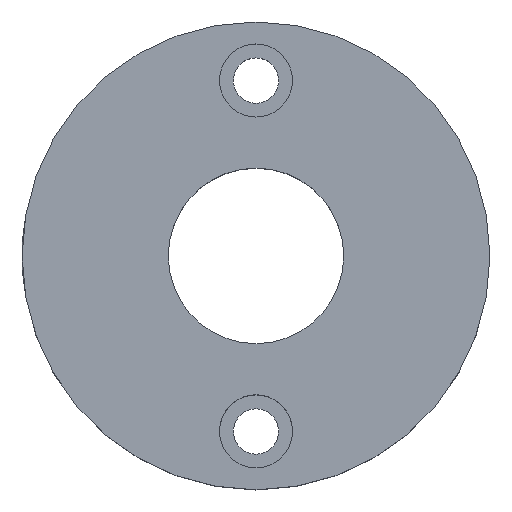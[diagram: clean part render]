
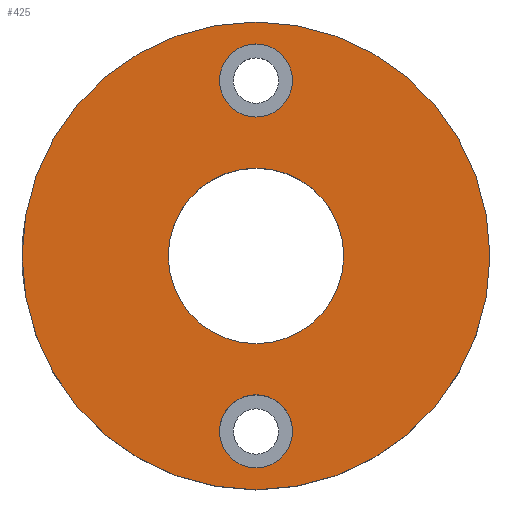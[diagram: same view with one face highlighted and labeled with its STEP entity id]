
A CAD part, top view. The second image highlights one B-rep face of the part: STEP entity #425.
In plain terms, the highlighted planar face has unit normal (0, 0, 1).
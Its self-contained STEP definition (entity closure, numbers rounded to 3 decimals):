
#6 = ORIENTED_EDGE ( 'NONE', *, *, #511, .F. ) ;
#13 = DIRECTION ( 'NONE',  ( 0., 0., 1. ) ) ;
#15 = AXIS2_PLACEMENT_3D ( 'NONE', #675, #160, #373 ) ;
#31 = DIRECTION ( 'NONE',  ( 1., 0., 0. ) ) ;
#34 = CARTESIAN_POINT ( 'NONE',  ( 19.05, 49.931, 22.225 ) ) ;
#39 = DIRECTION ( 'NONE',  ( 1., 0., 0. ) ) ;
#42 = VERTEX_POINT ( 'NONE', #200 ) ;
#63 = ORIENTED_EDGE ( 'NONE', *, *, #433, .F. ) ;
#96 = VERTEX_POINT ( 'NONE', #492 ) ;
#98 = DIRECTION ( 'NONE',  ( 1., 0., 0. ) ) ;
#102 = CARTESIAN_POINT ( 'NONE',  ( 19.05, 49.931, 22.225 ) ) ;
#105 = EDGE_LOOP ( 'NONE', ( #520, #393 ) ) ;
#109 = CARTESIAN_POINT ( 'NONE',  ( 19.05, 11.831, 22.225 ) ) ;
#159 = EDGE_LOOP ( 'NONE', ( #6, #413 ) ) ;
#160 = DIRECTION ( 'NONE',  ( 0., 0., 1. ) ) ;
#165 = EDGE_CURVE ( 'NONE', #741, #222, #337, .T. ) ;
#178 = EDGE_CURVE ( 'NONE', #42, #96, #732, .T. ) ;
#188 = CARTESIAN_POINT ( 'NONE',  ( 19.05, 49.931, 22.225 ) ) ;
#200 = CARTESIAN_POINT ( 'NONE',  ( -31.75, 49.931, 22.225 ) ) ;
#205 = DIRECTION ( 'NONE',  ( 0., 0., 1. ) ) ;
#222 = VERTEX_POINT ( 'NONE', #277 ) ;
#233 = CARTESIAN_POINT ( 'NONE',  ( 26.988, 11.831, 22.225 ) ) ;
#237 = CIRCLE ( 'NONE', #462, 50.8 ) ;
#241 = FACE_BOUND ( 'NONE', #756, .T. ) ;
#242 = VERTEX_POINT ( 'NONE', #558 ) ;
#245 = DIRECTION ( 'NONE',  ( 0., 0., 1. ) ) ;
#250 = CIRCLE ( 'NONE', #676, 7.938 ) ;
#256 = EDGE_LOOP ( 'NONE', ( #63, #512 ) ) ;
#270 = DIRECTION ( 'NONE',  ( 1., 0., 0. ) ) ;
#277 = CARTESIAN_POINT ( 'NONE',  ( 26.988, 88.031, 22.225 ) ) ;
#284 = AXIS2_PLACEMENT_3D ( 'NONE', #188, #13, #419 ) ;
#291 = VERTEX_POINT ( 'NONE', #706 ) ;
#297 = CIRCLE ( 'NONE', #284, 19.05 ) ;
#304 = AXIS2_PLACEMENT_3D ( 'NONE', #619, #564, #31 ) ;
#309 = DIRECTION ( 'NONE',  ( 1., 0., 0. ) ) ;
#312 = VERTEX_POINT ( 'NONE', #233 ) ;
#337 = CIRCLE ( 'NONE', #304, 7.938 ) ;
#339 = DIRECTION ( 'NONE',  ( 0., 0., 1. ) ) ;
#353 = FACE_BOUND ( 'NONE', #159, .T. ) ;
#373 = DIRECTION ( 'NONE',  ( 1., 0., 0. ) ) ;
#393 = ORIENTED_EDGE ( 'NONE', *, *, #744, .T. ) ;
#398 = DIRECTION ( 'NONE',  ( 1., 0., 0. ) ) ;
#406 = CIRCLE ( 'NONE', #15, 7.938 ) ;
#413 = ORIENTED_EDGE ( 'NONE', *, *, #673, .F. ) ;
#417 = ORIENTED_EDGE ( 'NONE', *, *, #525, .F. ) ;
#419 = DIRECTION ( 'NONE',  ( 1., 0., 0. ) ) ;
#425 = ADVANCED_FACE ( 'NONE', ( #428, #241, #353, #472 ), #468, .T. ) ;
#428 = FACE_BOUND ( 'NONE', #256, .T. ) ;
#433 = EDGE_CURVE ( 'NONE', #242, #655, #297, .T. ) ;
#451 = CIRCLE ( 'NONE', #726, 19.05 ) ;
#458 = DIRECTION ( 'NONE',  ( 1., 0., 0. ) ) ;
#462 = AXIS2_PLACEMENT_3D ( 'NONE', #102, #339, #398 ) ;
#468 = PLANE ( 'NONE',  #628 ) ;
#472 = FACE_OUTER_BOUND ( 'NONE', #105, .T. ) ;
#492 = CARTESIAN_POINT ( 'NONE',  ( 69.85, 49.931, 22.225 ) ) ;
#494 = DIRECTION ( 'NONE',  ( 0., 0., 1. ) ) ;
#511 = EDGE_CURVE ( 'NONE', #312, #291, #250, .T. ) ;
#512 = ORIENTED_EDGE ( 'NONE', *, *, #537, .F. ) ;
#520 = ORIENTED_EDGE ( 'NONE', *, *, #178, .T. ) ;
#523 = CARTESIAN_POINT ( 'NONE',  ( 0., 49.931, 22.225 ) ) ;
#525 = EDGE_CURVE ( 'NONE', #222, #741, #406, .T. ) ;
#537 = EDGE_CURVE ( 'NONE', #655, #242, #451, .T. ) ;
#555 = AXIS2_PLACEMENT_3D ( 'NONE', #109, #688, #458 ) ;
#558 = CARTESIAN_POINT ( 'NONE',  ( 38.1, 49.931, 22.225 ) ) ;
#564 = DIRECTION ( 'NONE',  ( 0., 0., 1. ) ) ;
#619 = CARTESIAN_POINT ( 'NONE',  ( 19.05, 88.031, 22.225 ) ) ;
#625 = CARTESIAN_POINT ( 'NONE',  ( 11.113, 88.031, 22.225 ) ) ;
#628 = AXIS2_PLACEMENT_3D ( 'NONE', #712, #245, #309 ) ;
#655 = VERTEX_POINT ( 'NONE', #523 ) ;
#673 = EDGE_CURVE ( 'NONE', #291, #312, #691, .T. ) ;
#675 = CARTESIAN_POINT ( 'NONE',  ( 19.05, 88.031, 22.225 ) ) ;
#676 = AXIS2_PLACEMENT_3D ( 'NONE', #730, #205, #270 ) ;
#678 = CARTESIAN_POINT ( 'NONE',  ( 19.05, 49.931, 22.225 ) ) ;
#688 = DIRECTION ( 'NONE',  ( 0., 0., 1. ) ) ;
#691 = CIRCLE ( 'NONE', #555, 7.938 ) ;
#695 = AXIS2_PLACEMENT_3D ( 'NONE', #678, #494, #39 ) ;
#697 = ORIENTED_EDGE ( 'NONE', *, *, #165, .F. ) ;
#706 = CARTESIAN_POINT ( 'NONE',  ( 11.113, 11.831, 22.225 ) ) ;
#712 = CARTESIAN_POINT ( 'NONE',  ( 19.05, 49.931, 22.225 ) ) ;
#726 = AXIS2_PLACEMENT_3D ( 'NONE', #34, #742, #98 ) ;
#730 = CARTESIAN_POINT ( 'NONE',  ( 19.05, 11.831, 22.225 ) ) ;
#732 = CIRCLE ( 'NONE', #695, 50.8 ) ;
#741 = VERTEX_POINT ( 'NONE', #625 ) ;
#742 = DIRECTION ( 'NONE',  ( 0., 0., 1. ) ) ;
#744 = EDGE_CURVE ( 'NONE', #96, #42, #237, .T. ) ;
#756 = EDGE_LOOP ( 'NONE', ( #417, #697 ) ) ;
